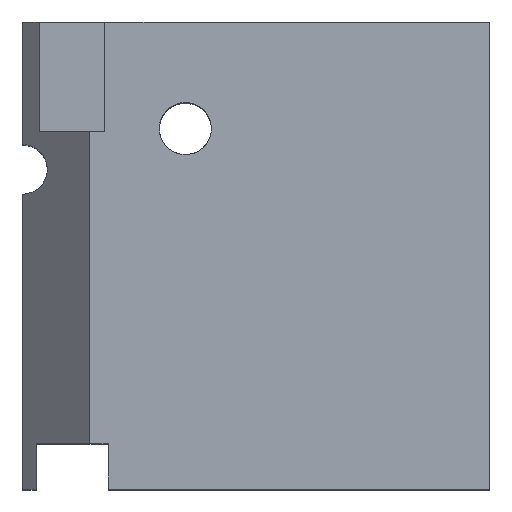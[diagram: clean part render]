
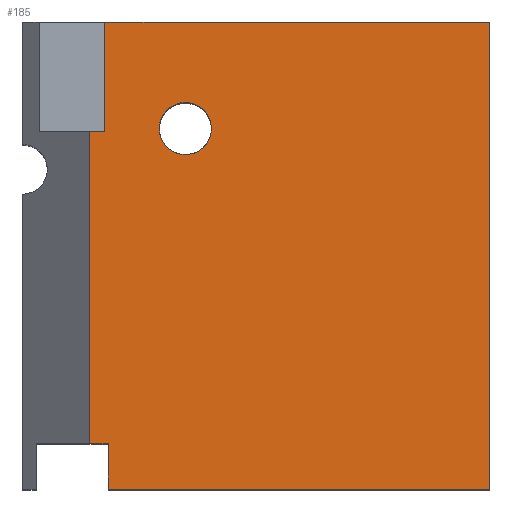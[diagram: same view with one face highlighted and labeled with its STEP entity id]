
A CAD part, top view. The second image highlights one B-rep face of the part: STEP entity #185.
In plain terms, the highlighted planar face has unit normal (0, 0, 1).
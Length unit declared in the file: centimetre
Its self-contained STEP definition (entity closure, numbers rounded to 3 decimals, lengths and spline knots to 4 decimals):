
#25 = CARTESIAN_POINT ( 'NONE',  ( 143.6342, 766.0091, 1000. ) ) ;
#35 = VECTOR ( 'NONE', #2282, 100. ) ;
#60 = VECTOR ( 'NONE', #612, 100. ) ;
#86 = DIRECTION ( 'NONE',  ( 0., 0., -1. ) ) ;
#143 = CIRCLE ( 'NONE', #2051, 55.7335 ) ;
#174 = EDGE_LOOP ( 'NONE', ( #369, #984 ) ) ;
#181 = ORIENTED_EDGE ( 'NONE', *, *, #1492, .F. ) ;
#185 = ADVANCED_FACE ( 'NONE', ( #682, #1781 ), #669, .T. ) ;
#199 = CARTESIAN_POINT ( 'NONE',  ( 36.0039, 766.0091, 1000. ) ) ;
#243 = CARTESIAN_POINT ( 'NONE',  ( 29.7911, 97.6972, 1000. ) ) ;
#259 = EDGE_CURVE ( 'NONE', #1356, #2253, #143, .T. ) ;
#267 = VERTEX_POINT ( 'NONE', #1244 ) ;
#289 = VECTOR ( 'NONE', #584, 100. ) ;
#309 = LINE ( 'NONE', #1935, #1226 ) ;
#341 = CARTESIAN_POINT ( 'NONE',  ( 348.7458, 771.8019, 1000. ) ) ;
#353 = ORIENTED_EDGE ( 'NONE', *, *, #2167, .T. ) ;
#369 = ORIENTED_EDGE ( 'NONE', *, *, #259, .T. ) ;
#375 = DIRECTION ( 'NONE',  ( 1., 0., 0. ) ) ;
#401 = VECTOR ( 'NONE', #488, 100. ) ;
#411 = CIRCLE ( 'NONE', #494, 55.7335 ) ;
#488 = DIRECTION ( 'NONE',  ( 0., 1., 0. ) ) ;
#494 = AXIS2_PLACEMENT_3D ( 'NONE', #783, #86, #821 ) ;
#533 = EDGE_CURVE ( 'NONE', #267, #2256, #2303, .T. ) ;
#545 = ORIENTED_EDGE ( 'NONE', *, *, #1464, .T. ) ;
#584 = DIRECTION ( 'NONE',  ( -1., 0., 0. ) ) ;
#612 = DIRECTION ( 'NONE',  ( 0., 1., 0. ) ) ;
#669 = PLANE ( 'NONE',  #1976 ) ;
#682 = FACE_OUTER_BOUND ( 'NONE', #1871, .T. ) ;
#742 = CARTESIAN_POINT ( 'NONE',  ( 1000., 1000., 1000. ) ) ;
#783 = CARTESIAN_POINT ( 'NONE',  ( 348.7458, 771.8019, 1000. ) ) ;
#800 = LINE ( 'NONE', #2281, #35 ) ;
#821 = DIRECTION ( 'NONE',  ( -1., 0., 0. ) ) ;
#823 = VERTEX_POINT ( 'NONE', #1572 ) ;
#842 = LINE ( 'NONE', #1025, #1489 ) ;
#984 = ORIENTED_EDGE ( 'NONE', *, *, #1776, .T. ) ;
#1010 = DIRECTION ( 'NONE',  ( 0., -1., 0. ) ) ;
#1025 = CARTESIAN_POINT ( 'NONE',  ( 143.6342, 0., 1000. ) ) ;
#1037 = DIRECTION ( 'NONE',  ( 1., 0., 0. ) ) ;
#1039 = DIRECTION ( 'NONE',  ( 1., 0., 0. ) ) ;
#1053 = CARTESIAN_POINT ( 'NONE',  ( 183.6658, 0., 1000. ) ) ;
#1094 = CARTESIAN_POINT ( 'NONE',  ( 176.6477, 1000., 1000. ) ) ;
#1121 = VERTEX_POINT ( 'NONE', #1094 ) ;
#1134 = LINE ( 'NONE', #1305, #2237 ) ;
#1157 = LINE ( 'NONE', #243, #289 ) ;
#1169 = VERTEX_POINT ( 'NONE', #742 ) ;
#1181 = CARTESIAN_POINT ( 'NONE',  ( 183.6658, 97.6972, 1000. ) ) ;
#1187 = CARTESIAN_POINT ( 'NONE',  ( 176.6477, 766.0091, 1000. ) ) ;
#1226 = VECTOR ( 'NONE', #1039, 100. ) ;
#1244 = CARTESIAN_POINT ( 'NONE',  ( 183.6658, 0., 1000. ) ) ;
#1292 = CARTESIAN_POINT ( 'NONE',  ( 143.6342, 97.6972, 1000. ) ) ;
#1299 = ORIENTED_EDGE ( 'NONE', *, *, #1395, .F. ) ;
#1305 = CARTESIAN_POINT ( 'NONE',  ( 0., 1000., 1000. ) ) ;
#1356 = VERTEX_POINT ( 'NONE', #1542 ) ;
#1395 = EDGE_CURVE ( 'NONE', #2256, #1535, #1157, .T. ) ;
#1424 = CARTESIAN_POINT ( 'NONE',  ( 0., 0., 1000. ) ) ;
#1464 = EDGE_CURVE ( 'NONE', #1169, #1121, #1134, .T. ) ;
#1489 = VECTOR ( 'NONE', #1010, 100. ) ;
#1492 = EDGE_CURVE ( 'NONE', #1537, #1818, #2018, .T. ) ;
#1535 = VERTEX_POINT ( 'NONE', #1292 ) ;
#1537 = VERTEX_POINT ( 'NONE', #25 ) ;
#1542 = CARTESIAN_POINT ( 'NONE',  ( 293.0123, 771.8019, 1000. ) ) ;
#1551 = CARTESIAN_POINT ( 'NONE',  ( 404.4793, 771.8019, 1000. ) ) ;
#1572 = CARTESIAN_POINT ( 'NONE',  ( 1000., 0., 1000. ) ) ;
#1600 = DIRECTION ( 'NONE',  ( 0., 0., -1. ) ) ;
#1634 = EDGE_CURVE ( 'NONE', #1818, #1121, #1866, .T. ) ;
#1714 = CARTESIAN_POINT ( 'NONE',  ( 176.6477, 766.0091, 1000. ) ) ;
#1776 = EDGE_CURVE ( 'NONE', #2253, #1356, #411, .T. ) ;
#1781 = FACE_BOUND ( 'NONE', #174, .T. ) ;
#1791 = ORIENTED_EDGE ( 'NONE', *, *, #2354, .T. ) ;
#1818 = VERTEX_POINT ( 'NONE', #1187 ) ;
#1852 = DIRECTION ( 'NONE',  ( -1., 0., 0. ) ) ;
#1866 = LINE ( 'NONE', #1714, #60 ) ;
#1871 = EDGE_LOOP ( 'NONE', ( #1299, #2371, #1791, #353, #545, #2211, #181, #2200 ) ) ;
#1935 = CARTESIAN_POINT ( 'NONE',  ( 0., 0., 1000. ) ) ;
#1946 = DIRECTION ( 'NONE',  ( 0., 0., 1. ) ) ;
#1970 = DIRECTION ( 'NONE',  ( -1., 0., 0. ) ) ;
#1976 = AXIS2_PLACEMENT_3D ( 'NONE', #1424, #1946, #1037 ) ;
#2018 = LINE ( 'NONE', #199, #2128 ) ;
#2051 = AXIS2_PLACEMENT_3D ( 'NONE', #341, #1600, #1970 ) ;
#2128 = VECTOR ( 'NONE', #375, 100. ) ;
#2167 = EDGE_CURVE ( 'NONE', #823, #1169, #800, .T. ) ;
#2200 = ORIENTED_EDGE ( 'NONE', *, *, #2316, .T. ) ;
#2211 = ORIENTED_EDGE ( 'NONE', *, *, #1634, .F. ) ;
#2237 = VECTOR ( 'NONE', #1852, 100. ) ;
#2253 = VERTEX_POINT ( 'NONE', #1551 ) ;
#2256 = VERTEX_POINT ( 'NONE', #1181 ) ;
#2281 = CARTESIAN_POINT ( 'NONE',  ( 1000., 1000., 1000. ) ) ;
#2282 = DIRECTION ( 'NONE',  ( 0., 1., 0. ) ) ;
#2303 = LINE ( 'NONE', #1053, #401 ) ;
#2316 = EDGE_CURVE ( 'NONE', #1537, #1535, #842, .T. ) ;
#2354 = EDGE_CURVE ( 'NONE', #267, #823, #309, .T. ) ;
#2371 = ORIENTED_EDGE ( 'NONE', *, *, #533, .F. ) ;
